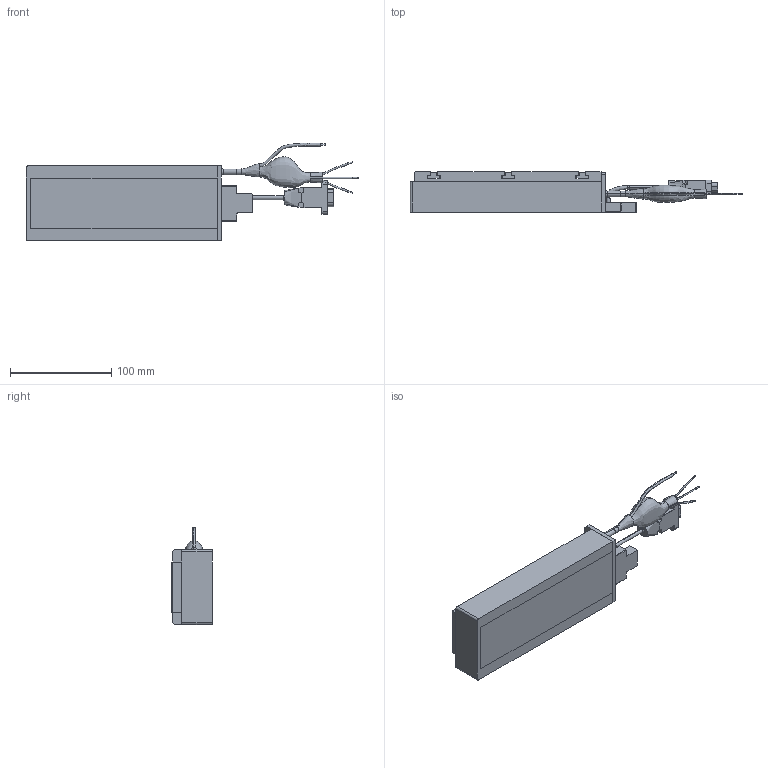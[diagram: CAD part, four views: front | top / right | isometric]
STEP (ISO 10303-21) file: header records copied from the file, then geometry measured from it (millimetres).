
FILE_DESCRIPTION (( 'STEP AP214' ), '1' );
FILE_NAME ('PIX200-040-050.STEP', '2016-05-10T03:21:38', ( '' ), ( '' ), 'SwSTEP 2.0', 'SolidWorks 2015', '' );
FILE_SCHEMA (( 'AUTOMOTIVE_DESIGN' ));
Length unit declared in the file: millimetre
Products named in the file (12): MALE D-SUB 9PIN CONNECTOR(HALL); HEX SHCS M3x0.5x10(S.S)_B18.3.1M - 3 x 0.5 x 10 Hex SHCS -- 10CHX; CBL_MTR_HALL_DS_5C_SA (#3614-1); 001SH-0000-002_CUSTOMER; 001S200-040-050-003_CUSTOMER; 001S200-040-050-004; 001S200-040-050-0000-003_CUSTOMER; 001S200-040-0000-001_CUSTOMER_50; PIX200-040-050; FERRITE CORE (FC2); CBL_MTR_PWR_SS_4C2C_SA (#3620-1); 001SH-0000-000_CUSTOMER 
Assembly tree (16 placements, depth 3):
  PIX200-040-050
    001S200-040-0000-001_CUSTOMER_50
    001S200-040-050-0000-003_CUSTOMER  x3
    001S200-040-050-004
    001S200-040-050-003_CUSTOMER
    001SH-0000-000_CUSTOMER 
      001SH-0000-002_CUSTOMER
      CBL_MTR_HALL_DS_5C_SA (#3614-1)
      HEX SHCS M3x0.5x10(S.S)_B18.3.1M - 3 x 0.5 x 10 Hex SHCS -- 10CHX  x2
      MALE D-SUB 9PIN CONNECTOR(HALL)
    HEX SHCS M3x0.5x10(S.S)_B18.3.1M - 3 x 0.5 x 10 Hex SHCS -- 10CHX  x2
    CBL_MTR_PWR_SS_4C2C_SA (#3620-1)
    FERRITE CORE (FC2)
Bounding box: 328 x 39.9 x 96.34 mm (x, y, z)
Volume: 834419.3 mm3; surface area: 112603.1 mm2
Topology: 15 solids, 15 shells, 499 faces, 1220 edges, 767 vertices
Faces by surface type: plane 260, cylinder 134, cone 43, torus 28, bspline 23, sphere 11
Entity records: 15119 total; most frequent: CARTESIAN_POINT 5093, DIRECTION 1890, ORIENTED_EDGE 1828, EDGE_CURVE 914, AXIS2_PLACEMENT_3D 680, VERTEX_POINT 586, LINE 530, VECTOR 530
